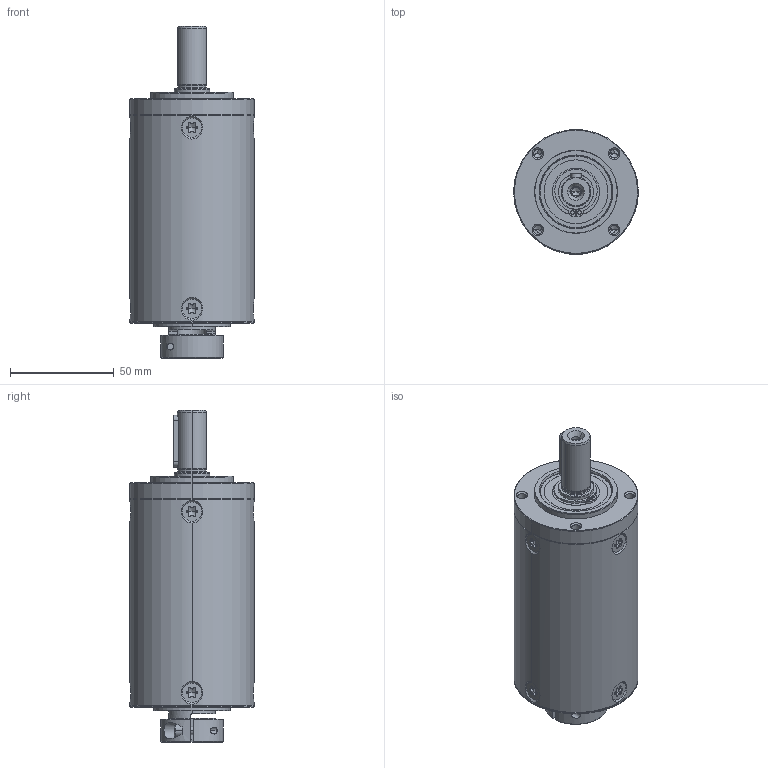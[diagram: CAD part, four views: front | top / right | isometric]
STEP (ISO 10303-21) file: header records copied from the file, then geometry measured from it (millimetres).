
FILE_DESCRIPTION (( 'STEP AP214' ), '1' );
FILE_NAME ('RPS060 3-ST.STEP', '2023-07-26T13:00:55', ( '' ), ( '' ), 'SwSTEP 2.0', 'SolidWorks 2021', '' );
FILE_SCHEMA (( 'AUTOMOTIVE_DESIGN' ));
Length unit declared in the file: millimetre
Products named in the file (1): RPS060 3-ST
Bounding box: 60 x 60 x 160.05 mm (x, y, z)
Volume: 319789.1 mm3; surface area: 33748 mm2
Topology: 1 solids, 1 shells, 451 faces, 1189 edges, 745 vertices
Faces by surface type: cylinder 266, cone 108, plane 60, torus 15, bspline 2
Entity records: 20747 total; most frequent: CARTESIAN_POINT 4921, DIRECTION 2297, ORIENTED_EDGE 2294, EDGE_CURVE 1147, AXIS2_PLACEMENT_3D 937, VERTEX_POINT 745, EDGE_LOOP 500, CIRCLE 487
